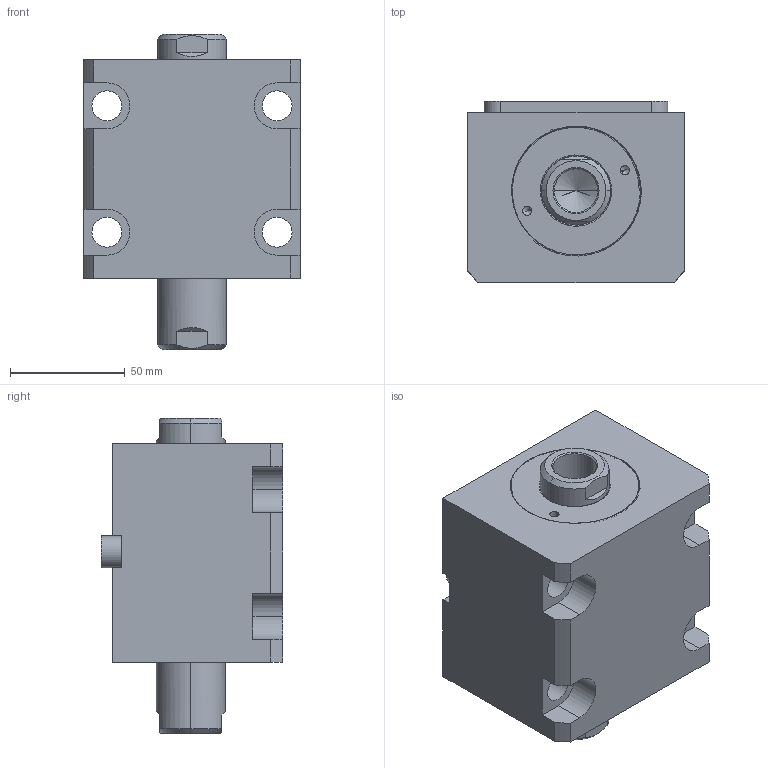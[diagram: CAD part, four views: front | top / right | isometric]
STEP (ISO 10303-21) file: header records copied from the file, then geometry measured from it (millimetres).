
FILE_DESCRIPTION (( 'STEP AP203' ), '1' );
FILE_NAME ('CHTB-LWM50-20N.STEP', '2018-05-22T08:46:15', ( '' ), ( '' ), 'SwSTEP 2.0', 'SolidWorks 2015', '' );
FILE_SCHEMA (( 'CONFIG_CONTROL_DESIGN' ));
Length unit declared in the file: millimetre
Products named in the file (4): CHTB-LWM50-20N; 活塞杆LWM50-20N; CHTM-SDMA50QG; 掛极LWM50-20N
Assembly tree (3 placements, depth 2):
  CHTB-LWM50-20N
    掛极LWM50-20N
    活塞杆LWM50-20N
    CHTM-SDMA50QG
Bounding box: 94 x 79 x 137 mm (x, y, z)
Volume: 594390.1 mm3; surface area: 107391.3 mm2
Topology: 3 solids, 3 shells, 213 faces, 571 edges, 374 vertices
Faces by surface type: cylinder 104, plane 57, cone 22, torus 16, bspline 14
Entity records: 11569 total; most frequent: CARTESIAN_POINT 6050, ORIENTED_EDGE 1126, DIRECTION 1011, EDGE_CURVE 563, AXIS2_PLACEMENT_3D 396, VERTEX_POINT 374, EDGE_LOOP 247, LINE 219
